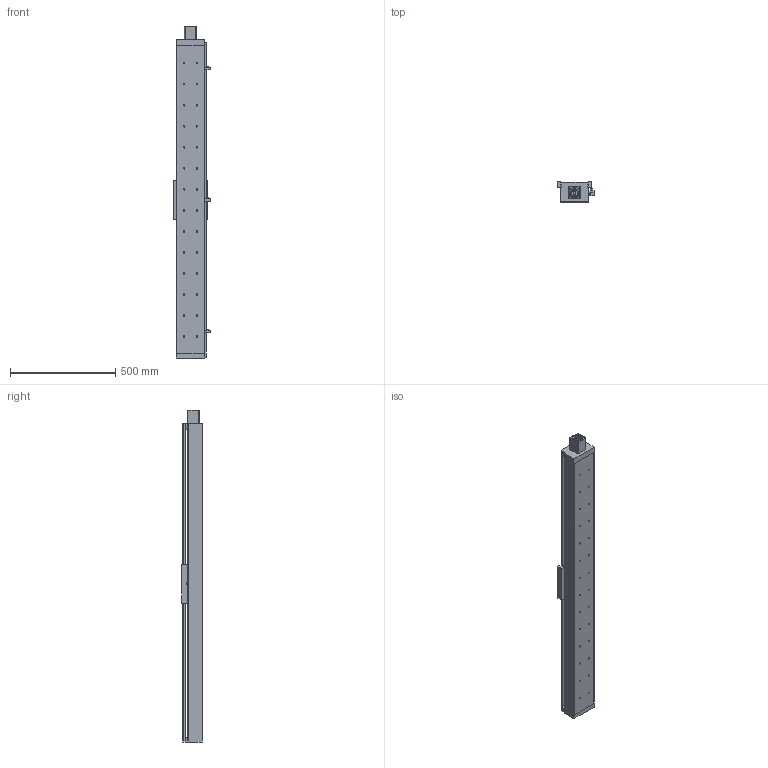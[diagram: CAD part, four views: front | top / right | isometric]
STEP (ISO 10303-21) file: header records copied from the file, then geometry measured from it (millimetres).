
FILE_DESCRIPTION((''),'2;1');
FILE_NAME('E:\libraries\UIA actuator library 2009\standard actuator\UIA136 ball screw 25\UIA136R15NDC-_ _ _-R25_ _, stp file 27Apr16\UIA136R15NDC-1250-R25_ _-M60-P13-C10-S.stp','2016-04-28T17:30:02',('h029'),(''),'Autodesk Inventor 11','Autodesk Inventor 11','');
FILE_SCHEMA(('AUTOMOTIVE_DESIGN { 1 0 10303 214 1 1 1 1 }'));
Length unit declared in the file: millimetre
Products named in the file (10): UIA136R15NDC-1250; UIA136R15NDC-body; motor mount F60; SOH-32C; SOH-32C-3; SOH-32C-1; SOH-32C-2; Carriage; Sensor Switch; sensor rail
Assembly tree (9 placements, depth 3):
  UIA136R15NDC-1250
    UIA136R15NDC-body
    motor mount F60
    SOH-32C
      SOH-32C-3
      SOH-32C-1
      SOH-32C-2
    Carriage
    Sensor Switch
    sensor rail
Bounding box: 174.5 x 98 x 1580 mm (x, y, z)
Volume: 5682624.5 mm3; surface area: 1614534.4 mm2
Topology: 8 solids, 8 shells, 544 faces, 1415 edges, 926 vertices
Faces by surface type: plane 324, bspline 170, cylinder 46, cone 4
Full cylindrical faces by diameter (mm): 2.459 x2, 3.242 x2, 4.5 x2, 7 x4, 7.5 x2, 14 x3, 17 x1, 32 x3, 37 x1, 50.3 x1, 50.5 x1
Entity records: 17780 total; most frequent: CARTESIAN_POINT 5300, ORIENTED_EDGE 2392, DIRECTION 2346, EDGE_CURVE 1196, VERTEX_POINT 862, EDGE_LOOP 848, VECTOR 816, LINE 816
